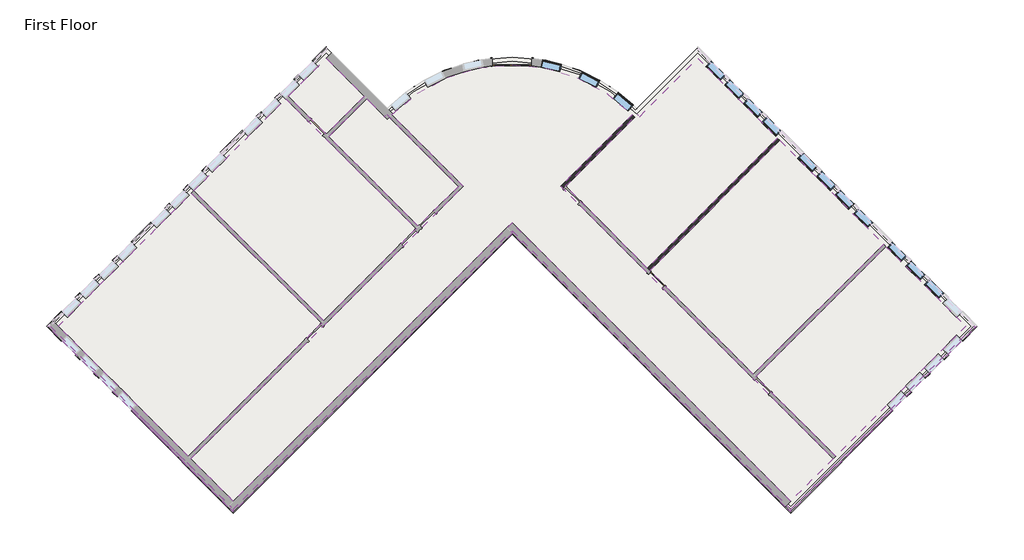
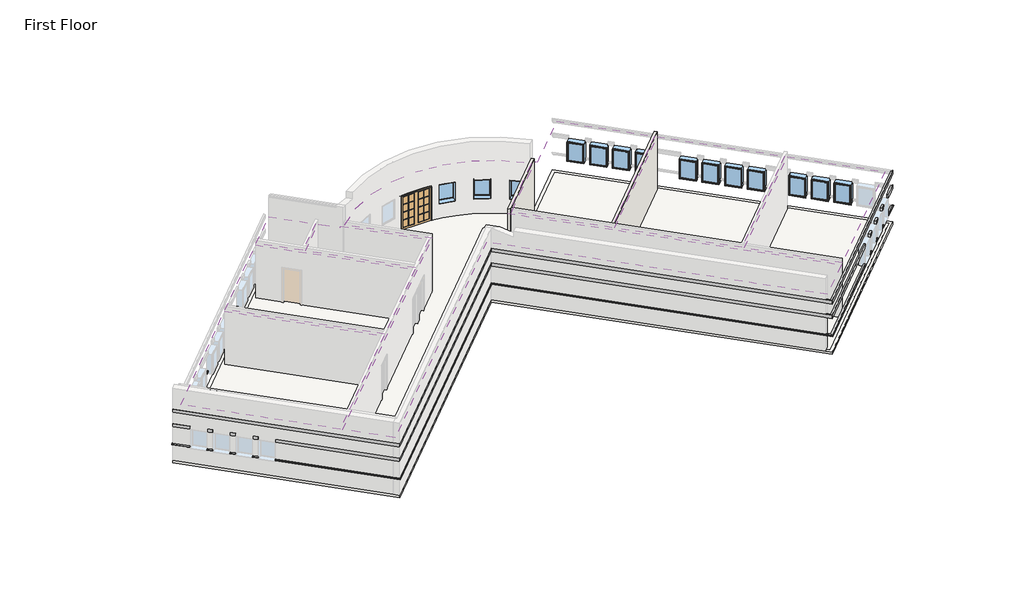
# One storey, part 3 of 4: 14 windows, 13 proxies, 8 coverings, 2 doors, 2 slabs, 2 walls.
"""IFC4 building model written with IfcOpenShell, lengths in millimetres."""

from ifc_helpers import new_model, si_unit, point, frame, frame_2d, origin, origin_with_axes, place, context, project, spatial, polyline, circle_curve, trimmed, segment, composite_curve, outline, extrude, faceted_brep, transform, mapped, element, save
from ifc_brep_helpers import plane_surface, cylinder_surface, advanced_brep
from components import door_0a477ef8, door_5f5b55da, window_15c49d37, window_0e2fc6ce

model = new_model("IFC4")

# Units and contexts
model_context = context("Model", 3, world=origin())
ifc_project = project(units=[si_unit("LENGTHUNIT", "METRE", prefix="MILLI")], contexts=[model_context])

# Site, building, storey
site = spatial("IfcSite", under=ifc_project)
building = spatial("IfcBuilding", under=site)
storey = spatial("IfcBuildingStorey", under=building, Name="First Floor", Elevation=0.0)

# Proxies
placement = place(None, origin())
element("IfcBuildingElementProxy", 1, Name="Wall Sweeps", at=placement, inside=storey, context=model_context, shape_type="Brep", body=[
    faceted_brep([(18554.3726125, -1357.9895101, 1085.85), (18684.5863263, -1357.9895101, 1085.85), (18733.9777349, -1357.9895101, 1041.4), (18733.9777349, -1357.9895101, 1016.0), (18554.3726125, -1357.9895101, 1016.0), (17956.0630484, -1956.2990742, 1085.85), (17956.0630484, -1956.2990742, 1016.0), (18021.1699053, -2021.405931, 1016.0), (18045.8656096, -2046.1016354, 1016.0), (18045.8656096, -2046.1016354, 1041.4), (18021.1699053, -2021.405931, 1085.85), (18370.277362, -1542.0847606, 1085.85), (18370.277362, -1542.0847606, 1016.0)], [[[0, 1, 2, 3, 4]], [[5, 6, 7, 8, 9, 10]], [[1, 0, 11, 5, 10]], [[2, 1, 10, 9]], [[3, 2, 9, 8]], [[4, 3, 8, 7, 6, 12]], [[0, 4, 12, 6, 5, 11]]]),
    faceted_brep([(17309.4846077, -2602.8775149, 1085.85), (17374.5914646, -2667.9843718, 1085.85), (17399.2871689, -2692.6800761, 1041.4), (17399.2871689, -2692.6800761, 1016.0), (17374.5914646, -2667.9843718, 1016.0), (17309.4846077, -2602.8775149, 1016.0), (17093.9584608, -2818.4036618, 1085.85), (17093.9584608, -2818.4036618, 1016.0), (17159.0653177, -2883.5105187, 1016.0), (17183.761022, -2908.206223, 1016.0), (17183.761022, -2908.206223, 1041.4), (17159.0653177, -2883.5105187, 1085.85)], [[[0, 1, 2, 3, 4, 5]], [[6, 7, 8, 9, 10, 11]], [[1, 0, 6, 11]], [[2, 1, 11, 10]], [[3, 2, 10, 9]], [[5, 4, 3, 9, 8, 7]], [[0, 5, 7, 6]]]),
    faceted_brep([(16447.3800201, -3464.9821025, 1085.85), (16512.486877, -3530.0889594, 1085.85), (16537.1825813, -3554.7846637, 1041.4), (16537.1825813, -3554.7846637, 1016.0), (16512.486877, -3530.0889594, 1016.0), (16447.3800201, -3464.9821025, 1016.0), (16231.8538732, -3680.5082494, 1085.85), (16231.8538732, -3680.5082494, 1016.0), (16296.9607301, -3745.6151063, 1016.0), (16321.6564344, -3770.3108106, 1016.0), (16321.6564344, -3770.3108106, 1041.4), (16296.9607301, -3745.6151063, 1085.85)], [[[0, 1, 2, 3, 4, 5]], [[6, 7, 8, 9, 10, 11]], [[1, 0, 6, 11]], [[2, 1, 11, 10]], [[3, 2, 10, 9]], [[5, 4, 3, 9, 8, 7]], [[0, 5, 7, 6]]]),
    faceted_brep([(15585.2754325, -4327.0866901, 1085.85), (15650.3822894, -4392.193547, 1085.85), (15675.0779937, -4416.8892513, 1041.4), (15675.0779937, -4416.8892513, 1016.0), (15650.3822894, -4392.193547, 1016.0), (15585.2754325, -4327.0866901, 1016.0), (15369.7492856, -4542.612837, 1085.85), (15369.7492856, -4542.612837, 1016.0), (15434.8561424, -4607.7196939, 1016.0), (15459.5518468, -4632.4153982, 1016.0), (15459.5518468, -4632.4153982, 1041.4), (15434.8561424, -4607.7196939, 1085.85)], [[[0, 1, 2, 3, 4, 5]], [[6, 7, 8, 9, 10, 11]], [[1, 0, 6, 11]], [[2, 1, 11, 10]], [[3, 2, 10, 9]], [[5, 4, 3, 9, 8, 7]], [[0, 5, 7, 6]]]),
    faceted_brep([(14723.1708449, -5189.1912777, 1085.85), (14788.2777017, -5254.2981346, 1085.85), (14812.9734061, -5278.993839, 1041.4), (14812.9734061, -5278.993839, 1016.0), (14788.2777017, -5254.2981346, 1016.0), (14723.1708449, -5189.1912777, 1016.0), (10063.54045, -9848.8216726, 1085.85), (10063.54045, -9848.8216726, 1016.0), (10063.54045, -10028.426795, 1016.0), (10063.54045, -10028.426795, 1041.4), (10063.54045, -9979.0353863, 1085.85)], [[[0, 1, 2, 3, 4, 5]], [[6, 7, 8, 9, 10]], [[1, 0, 6, 10]], [[2, 1, 10, 9]], [[3, 2, 9, 8]], [[5, 4, 3, 8, 7]], [[0, 5, 7, 6]]]),
])
element("IfcBuildingElementProxy", 2, Name="Wall Sweeps", at=placement, inside=storey, context=model_context, shape_type="Brep", body=[
    faceted_brep([(18684.5863263, -1357.9895101, 2336.8), (18684.5863263, -1357.9895101, 2133.6), (18554.3726125, -1357.9895101, 2133.6), (18554.3726125, -1357.9895101, 2336.8), (18021.1699053, -2021.405931, 2336.8), (17956.0630484, -1956.2990742, 2336.8), (17956.0630484, -1956.2990742, 2133.6), (18021.1699053, -2021.405931, 2133.6), (18435.3842189, -1607.1916175, 2336.8), (18435.3842189, -1607.1916175, 2133.6), (18370.277362, -1542.0847606, 2133.6), (18370.277362, -1542.0847606, 2336.8)], [[[0, 1, 2, 3]], [[4, 5, 6, 7]], [[1, 0, 8, 4, 7, 9]], [[2, 1, 9, 7, 6, 10]], [[3, 2, 10, 6, 5, 11]], [[0, 3, 11, 5, 4, 8]]]),
    faceted_brep([(17374.5914646, -2667.9843718, 2336.8), (17374.5914646, -2667.9843718, 2133.6), (17309.4846077, -2602.8775149, 2133.6), (17309.4846077, -2602.8775149, 2336.8), (17159.0653177, -2883.5105187, 2336.8), (17093.9584608, -2818.4036618, 2336.8), (17093.9584608, -2818.4036618, 2133.6), (17159.0653177, -2883.5105187, 2133.6)], [[[0, 1, 2, 3]], [[4, 5, 6, 7]], [[1, 0, 4, 7]], [[2, 1, 7, 6]], [[3, 2, 6, 5]], [[0, 3, 5, 4]]]),
    faceted_brep([(16512.486877, -3530.0889594, 2336.8), (16512.486877, -3530.0889594, 2133.6), (16447.3800201, -3464.9821025, 2133.6), (16447.3800201, -3464.9821025, 2336.8), (16296.9607301, -3745.6151063, 2336.8), (16231.8538732, -3680.5082494, 2336.8), (16231.8538732, -3680.5082494, 2133.6), (16296.9607301, -3745.6151063, 2133.6)], [[[0, 1, 2, 3]], [[4, 5, 6, 7]], [[1, 0, 4, 7]], [[2, 1, 7, 6]], [[3, 2, 6, 5]], [[0, 3, 5, 4]]]),
    faceted_brep([(15650.3822894, -4392.193547, 2336.8), (15650.3822894, -4392.193547, 2133.6), (15585.2754325, -4327.0866901, 2133.6), (15585.2754325, -4327.0866901, 2336.8), (15434.8561424, -4607.7196939, 2336.8), (15369.7492856, -4542.612837, 2336.8), (15369.7492856, -4542.612837, 2133.6), (15434.8561424, -4607.7196939, 2133.6)], [[[0, 1, 2, 3]], [[4, 5, 6, 7]], [[1, 0, 4, 7]], [[2, 1, 7, 6]], [[3, 2, 6, 5]], [[0, 3, 5, 4]]]),
    faceted_brep([(14788.2777017, -5254.2981346, 2336.8), (14788.2777017, -5254.2981346, 2133.6), (14723.1708449, -5189.1912777, 2133.6), (14723.1708449, -5189.1912777, 2336.8), (10063.54045, -9979.0353863, 2336.8), (10063.54045, -9848.8216726, 2336.8), (10063.54045, -9848.8216726, 2133.6), (10063.54045, -9979.0353863, 2133.6)], [[[0, 1, 2, 3]], [[4, 5, 6, 7]], [[1, 0, 4, 7]], [[2, 1, 7, 6]], [[3, 2, 6, 5]], [[0, 3, 5, 4]]]),
])
element("IfcBuildingElementProxy", 3, Name="Wall Sweeps", at=placement, inside=storey, context=model_context, shape_type="Brep", body=[
    faceted_brep([(18684.5863263, -1357.9895101, 3251.2), (18684.5863263, -1357.9895101, 3048.0), (18554.3726125, -1357.9895101, 3048.0), (18554.3726125, -1357.9895101, 3251.2), (10063.54045, -9979.0353863, 3251.2), (10063.54045, -9848.8216726, 3251.2), (10063.54045, -9848.8216726, 3048.0), (10063.54045, -9979.0353863, 3048.0), (18435.3842189, -1607.1916175, 3251.2), (18435.3842189, -1607.1916175, 3048.0), (18370.277362, -1542.0847606, 3048.0), (18370.277362, -1542.0847606, 3251.2)], [[[0, 1, 2, 3]], [[4, 5, 6, 7]], [[1, 0, 8, 4, 7, 9]], [[2, 1, 9, 7, 6, 10]], [[3, 2, 10, 6, 5, 11]], [[0, 3, 11, 5, 4, 8]]]),
])
element("IfcBuildingElementProxy", 4, Name="Wall Sweeps", at=placement, inside=storey, context=model_context, shape_type="Brep", body=[
    faceted_brep([(10063.54045, -9848.8216726, 1085.85), (10063.54045, -9979.0353863, 1085.85), (10063.54045, -10028.426795, 1041.4), (10063.54045, -10028.426795, 1016.0), (10063.54045, -9848.8216726, 1016.0), (-2868.0283643, 3082.7471418, 1085.85), (-2868.0283643, 3082.7471418, 1016.0), (-2868.0283643, 2903.1420194, 1016.0), (-2868.0283643, 2903.1420194, 1041.4), (-2868.0283643, 2952.533428, 1085.85), (9879.4451996, -9664.7264221, 1085.85), (9879.4451996, -9664.7264221, 1016.0)], [[[0, 1, 2, 3, 4]], [[5, 6, 7, 8, 9]], [[1, 0, 10, 5, 9]], [[2, 1, 9, 8]], [[3, 2, 8, 7]], [[4, 3, 7, 6, 11]], [[0, 4, 11, 6, 5, 10]]]),
])
element("IfcBuildingElementProxy", 5, Name="Wall Sweeps", at=placement, inside=storey, context=model_context, shape_type="Brep", body=[
    faceted_brep([(10063.54045, -9979.0353863, 2336.8), (10063.54045, -9979.0353863, 2133.6), (10063.54045, -9848.8216726, 2133.6), (10063.54045, -9848.8216726, 2336.8), (-2868.0283643, 2952.533428, 2336.8), (-2868.0283643, 3082.7471418, 2336.8), (-2868.0283643, 3082.7471418, 2133.6), (-2868.0283643, 2952.533428, 2133.6), (9814.3383427, -9729.833279, 2336.8), (9814.3383427, -9729.833279, 2133.6), (9879.4451996, -9664.7264221, 2133.6), (9879.4451996, -9664.7264221, 2336.8)], [[[0, 1, 2, 3]], [[4, 5, 6, 7]], [[1, 0, 8, 4, 7, 9]], [[2, 1, 9, 7, 6, 10]], [[3, 2, 10, 6, 5, 11]], [[0, 3, 11, 5, 4, 8]]]),
])
element("IfcBuildingElementProxy", 6, Name="Wall Sweeps", at=placement, inside=storey, context=model_context, shape_type="Brep", body=[
    faceted_brep([(10063.54045, -9979.0353863, 3251.2), (10063.54045, -9979.0353863, 3048.0), (10063.54045, -9848.8216726, 3048.0), (10063.54045, -9848.8216726, 3251.2), (-2868.0283643, 2952.533428, 3251.2), (-2868.0283643, 3082.7471418, 3251.2), (-2868.0283643, 3082.7471418, 3048.0), (-2868.0283643, 2952.533428, 3048.0), (9814.3383427, -9729.833279, 3251.2), (9814.3383427, -9729.833279, 3048.0), (9879.4451996, -9664.7264221, 3048.0), (9879.4451996, -9664.7264221, 3251.2)], [[[0, 1, 2, 3]], [[4, 5, 6, 7]], [[1, 0, 8, 4, 7, 9]], [[2, 1, 9, 7, 6, 10]], [[3, 2, 10, 6, 5, 11]], [[0, 3, 11, 5, 4, 8]]]),
])
element("IfcBuildingElementProxy", 7, Name="Wall Sweeps", at=placement, inside=storey, context=model_context, shape_type="Brep", body=[
    faceted_brep([(-2868.0283643, 3082.7471418, 1085.85), (-2868.0283643, 2952.533428, 1085.85), (-2868.0283643, 2903.1420194, 1041.4), (-2868.0283643, 2903.1420194, 1016.0), (-2868.0283643, 3082.7471418, 1016.0), (-15799.5971786, -9848.8216726, 1085.85), (-15799.5971786, -9848.8216726, 1016.0), (-15799.5971786, -10028.426795, 1016.0), (-15799.5971786, -10028.426795, 1041.4), (-15799.5971786, -9979.0353863, 1085.85), (-2933.1352212, 3017.6402849, 1085.85), (-2933.1352212, 3017.6402849, 1016.0)], [[[0, 1, 2, 3, 4]], [[5, 6, 7, 8, 9]], [[1, 0, 10, 5, 9]], [[2, 1, 9, 8]], [[3, 2, 8, 7]], [[4, 3, 7, 6, 11]], [[0, 4, 11, 6, 5, 10]]]),
])
element("IfcBuildingElementProxy", 8, Name="Wall Sweeps", at=placement, inside=storey, context=model_context, shape_type="Brep", body=[
    faceted_brep([(-2868.0283643, 2952.533428, 2336.8), (-2868.0283643, 2952.533428, 2133.6), (-2868.0283643, 3082.7471418, 2133.6), (-2868.0283643, 3082.7471418, 2336.8), (-15799.5971786, -9979.0353863, 2336.8), (-15799.5971786, -9848.8216726, 2336.8), (-15799.5971786, -9848.8216726, 2133.6), (-15799.5971786, -9979.0353863, 2133.6), (-2933.1352212, 3017.6402849, 2133.6), (-2933.1352212, 3017.6402849, 2336.8)], [[[0, 1, 2, 3]], [[4, 5, 6, 7]], [[1, 0, 4, 7]], [[2, 1, 7, 6, 8]], [[3, 2, 8, 6, 5, 9]], [[0, 3, 9, 5, 4]]]),
])
element("IfcBuildingElementProxy", 9, Name="Wall Sweeps", at=placement, inside=storey, context=model_context, shape_type="Brep", body=[
    faceted_brep([(-2868.0283643, 2952.533428, 3251.2), (-2868.0283643, 2952.533428, 3048.0), (-2868.0283643, 3082.7471418, 3048.0), (-2868.0283643, 3082.7471418, 3251.2), (-15799.5971786, -9979.0353863, 3251.2), (-15799.5971786, -9848.8216726, 3251.2), (-15799.5971786, -9848.8216726, 3048.0), (-15799.5971786, -9979.0353863, 3048.0), (-2933.1352212, 3017.6402849, 3048.0), (-2933.1352212, 3017.6402849, 3251.2)], [[[0, 1, 2, 3]], [[4, 5, 6, 7]], [[1, 0, 4, 7]], [[2, 1, 7, 6, 8]], [[3, 2, 8, 6, 5, 9]], [[0, 3, 9, 5, 4]]]),
])
element("IfcBuildingElementProxy", 10, Name="Wall Sweeps", at=placement, inside=storey, context=model_context, shape_type="Brep", body=[
    faceted_brep([(-15799.5971786, -9848.8216726, 1085.85), (-15799.5971786, -9979.0353863, 1085.85), (-15799.5971786, -10028.426795, 1041.4), (-15799.5971786, -10028.426795, 1016.0), (-15799.5971786, -9848.8216726, 1016.0), (-20459.2275735, -5189.1912777, 1085.85), (-20459.2275735, -5189.1912777, 1016.0), (-20524.3344303, -5254.2981346, 1016.0), (-20549.0301347, -5278.993839, 1016.0), (-20549.0301347, -5278.993839, 1041.4), (-20524.3344303, -5254.2981346, 1085.85), (-15983.6924291, -9664.7264221, 1085.85), (-15983.6924291, -9664.7264221, 1016.0)], [[[0, 1, 2, 3, 4]], [[5, 6, 7, 8, 9, 10]], [[1, 0, 11, 5, 10]], [[2, 1, 10, 9]], [[3, 2, 9, 8]], [[4, 3, 8, 7, 6, 12]], [[0, 4, 12, 6, 5, 11]]]),
    faceted_brep([(-21105.8060142, -4542.612837, 1085.85), (-21170.9128711, -4607.7196939, 1085.85), (-21195.6085754, -4632.4153982, 1041.4), (-21195.6085754, -4632.4153982, 1016.0), (-21170.9128711, -4607.7196939, 1016.0), (-21105.8060142, -4542.612837, 1016.0), (-21321.3321611, -4327.0866901, 1085.85), (-21321.3321611, -4327.0866901, 1016.0), (-21386.439018, -4392.193547, 1016.0), (-21411.1347223, -4416.8892513, 1016.0), (-21411.1347223, -4416.8892513, 1041.4), (-21386.439018, -4392.193547, 1085.85)], [[[0, 1, 2, 3, 4, 5]], [[6, 7, 8, 9, 10, 11]], [[1, 0, 6, 11]], [[2, 1, 11, 10]], [[3, 2, 10, 9]], [[5, 4, 3, 9, 8, 7]], [[0, 5, 7, 6]]]),
    faceted_brep([(-21967.9106018, -3680.5082494, 1085.85), (-22033.0174587, -3745.6151063, 1085.85), (-22057.713163, -3770.3108106, 1041.4), (-22057.713163, -3770.3108106, 1016.0), (-22033.0174587, -3745.6151063, 1016.0), (-21967.9106018, -3680.5082494, 1016.0), (-22183.4367487, -3464.9821025, 1085.85), (-22183.4367487, -3464.9821025, 1016.0), (-22248.5436056, -3530.0889594, 1016.0), (-22273.2393099, -3554.7846637, 1016.0), (-22273.2393099, -3554.7846637, 1041.4), (-22248.5436056, -3530.0889594, 1085.85)], [[[0, 1, 2, 3, 4, 5]], [[6, 7, 8, 9, 10, 11]], [[1, 0, 6, 11]], [[2, 1, 11, 10]], [[3, 2, 10, 9]], [[5, 4, 3, 9, 8, 7]], [[0, 5, 7, 6]]]),
    faceted_brep([(-22830.0151894, -2818.4036618, 1085.85), (-22895.1220463, -2883.5105187, 1085.85), (-22919.8177506, -2908.206223, 1041.4), (-22919.8177506, -2908.206223, 1016.0), (-22895.1220463, -2883.5105187, 1016.0), (-22830.0151894, -2818.4036618, 1016.0), (-23045.5413363, -2602.8775149, 1085.85), (-23045.5413363, -2602.8775149, 1016.0), (-23110.6481932, -2667.9843718, 1016.0), (-23135.3438975, -2692.6800761, 1016.0), (-23135.3438975, -2692.6800761, 1041.4), (-23110.6481932, -2667.9843718, 1085.85)], [[[0, 1, 2, 3, 4, 5]], [[6, 7, 8, 9, 10, 11]], [[1, 0, 6, 11]], [[2, 1, 11, 10]], [[3, 2, 10, 9]], [[5, 4, 3, 9, 8, 7]], [[0, 5, 7, 6]]]),
    faceted_brep([(-23692.119777, -1956.2990742, 1085.85), (-23757.2266339, -2021.405931, 1085.85), (-23781.9223383, -2046.1016354, 1041.4), (-23781.9223383, -2046.1016354, 1016.0), (-23757.2266339, -2021.405931, 1016.0), (-23692.119777, -1956.2990742, 1016.0), (-24290.4293411, -1357.9895101, 1085.85), (-24290.4293411, -1357.9895101, 1016.0), (-24470.0344635, -1357.9895101, 1016.0), (-24470.0344635, -1357.9895101, 1041.4), (-24420.6430549, -1357.9895101, 1085.85)], [[[0, 1, 2, 3, 4, 5]], [[6, 7, 8, 9, 10]], [[1, 0, 6, 10]], [[2, 1, 10, 9]], [[3, 2, 9, 8]], [[5, 4, 3, 8, 7]], [[0, 5, 7, 6]]]),
])
element("IfcBuildingElementProxy", 11, Name="Wall Sweeps", at=placement, inside=storey, context=model_context, shape_type="Brep", body=[
    faceted_brep([(-15799.5971786, -9979.0353863, 2336.8), (-15799.5971786, -9979.0353863, 2133.6), (-15799.5971786, -9848.8216726, 2133.6), (-15799.5971786, -9848.8216726, 2336.8), (-20524.3344303, -5254.2981346, 2336.8), (-20459.2275735, -5189.1912777, 2336.8), (-20459.2275735, -5189.1912777, 2133.6), (-20524.3344303, -5254.2981346, 2133.6), (-16048.799286, -9729.833279, 2336.8), (-16048.799286, -9729.833279, 2133.6), (-15983.6924291, -9664.7264221, 2133.6), (-15983.6924291, -9664.7264221, 2336.8)], [[[0, 1, 2, 3]], [[4, 5, 6, 7]], [[1, 0, 8, 4, 7, 9]], [[2, 1, 9, 7, 6, 10]], [[3, 2, 10, 6, 5, 11]], [[0, 3, 11, 5, 4, 8]]]),
    faceted_brep([(-21170.9128711, -4607.7196939, 2336.8), (-21170.9128711, -4607.7196939, 2133.6), (-21105.8060142, -4542.612837, 2133.6), (-21105.8060142, -4542.612837, 2336.8), (-21386.439018, -4392.193547, 2336.8), (-21321.3321611, -4327.0866901, 2336.8), (-21321.3321611, -4327.0866901, 2133.6), (-21386.439018, -4392.193547, 2133.6)], [[[0, 1, 2, 3]], [[4, 5, 6, 7]], [[1, 0, 4, 7]], [[2, 1, 7, 6]], [[3, 2, 6, 5]], [[0, 3, 5, 4]]]),
    faceted_brep([(-22033.0174587, -3745.6151063, 2336.8), (-22033.0174587, -3745.6151063, 2133.6), (-21967.9106018, -3680.5082494, 2133.6), (-21967.9106018, -3680.5082494, 2336.8), (-22248.5436056, -3530.0889594, 2336.8), (-22183.4367487, -3464.9821025, 2336.8), (-22183.4367487, -3464.9821025, 2133.6), (-22248.5436056, -3530.0889594, 2133.6)], [[[0, 1, 2, 3]], [[4, 5, 6, 7]], [[1, 0, 4, 7]], [[2, 1, 7, 6]], [[3, 2, 6, 5]], [[0, 3, 5, 4]]]),
    faceted_brep([(-22895.1220463, -2883.5105187, 2336.8), (-22895.1220463, -2883.5105187, 2133.6), (-22830.0151894, -2818.4036618, 2133.6), (-22830.0151894, -2818.4036618, 2336.8), (-23110.6481932, -2667.9843718, 2336.8), (-23045.5413363, -2602.8775149, 2336.8), (-23045.5413363, -2602.8775149, 2133.6), (-23110.6481932, -2667.9843718, 2133.6)], [[[0, 1, 2, 3]], [[4, 5, 6, 7]], [[1, 0, 4, 7]], [[2, 1, 7, 6]], [[3, 2, 6, 5]], [[0, 3, 5, 4]]]),
    faceted_brep([(-23757.2266339, -2021.405931, 2336.8), (-23757.2266339, -2021.405931, 2133.6), (-23692.119777, -1956.2990742, 2133.6), (-23692.119777, -1956.2990742, 2336.8), (-24420.6430549, -1357.9895101, 2336.8), (-24290.4293411, -1357.9895101, 2336.8), (-24290.4293411, -1357.9895101, 2133.6), (-24420.6430549, -1357.9895101, 2133.6)], [[[0, 1, 2, 3]], [[4, 5, 6, 7]], [[1, 0, 4, 7]], [[2, 1, 7, 6]], [[3, 2, 6, 5]], [[0, 3, 5, 4]]]),
])
element("IfcBuildingElementProxy", 12, Name="Wall Sweeps", at=placement, inside=storey, context=model_context, shape_type="Brep", body=[
    faceted_brep([(-15799.5971786, -9979.0353863, 3251.2), (-15799.5971786, -9979.0353863, 3048.0), (-15799.5971786, -9848.8216726, 3048.0), (-15799.5971786, -9848.8216726, 3251.2), (-24420.6430549, -1357.9895101, 3251.2), (-24290.4293411, -1357.9895101, 3251.2), (-24290.4293411, -1357.9895101, 3048.0), (-24420.6430549, -1357.9895101, 3048.0), (-16048.799286, -9729.833279, 3251.2), (-16048.799286, -9729.833279, 3048.0), (-15983.6924291, -9664.7264221, 3048.0), (-15983.6924291, -9664.7264221, 3251.2)], [[[0, 1, 2, 3]], [[4, 5, 6, 7]], [[1, 0, 8, 4, 7, 9]], [[2, 1, 9, 7, 6, 10]], [[3, 2, 10, 6, 5, 11]], [[0, 3, 11, 5, 4, 8]]]),
])
element("IfcBuildingElementProxy", 13, Name="Wall Sweeps", at=placement, inside=storey, context=model_context, shape_type="Brep", body=[
    faceted_brep([(-24290.4293411, -1357.9895101, 1085.85), (-24420.6430549, -1357.9895101, 1085.85), (-24470.0344635, -1357.9895101, 1041.4), (-24470.0344635, -1357.9895101, 1016.0), (-24290.4293411, -1357.9895101, 1016.0), (-23692.119777, -759.679946, 1085.85), (-23692.119777, -759.679946, 1016.0), (-23757.2266339, -694.5730891, 1016.0), (-23781.9223383, -669.8773848, 1016.0), (-23781.9223383, -669.8773848, 1041.4), (-23757.2266339, -694.5730891, 1085.85), (-24106.3340906, -1173.8942596, 1085.85), (-24106.3340906, -1173.8942596, 1016.0)], [[[0, 1, 2, 3, 4]], [[5, 6, 7, 8, 9, 10]], [[1, 0, 11, 5, 10]], [[2, 1, 10, 9]], [[3, 2, 9, 8]], [[4, 3, 8, 7, 6, 12]], [[0, 4, 12, 6, 5, 11]]]),
    faceted_brep([(-23045.5413363, -113.1015053, 1085.85), (-23110.6481932, -47.9946484, 1085.85), (-23135.3438975, -23.2989441, 1041.4), (-23135.3438975, -23.2989441, 1016.0), (-23110.6481932, -47.9946484, 1016.0), (-23045.5413363, -113.1015053, 1016.0), (-22830.0151894, 102.4246416, 1085.85), (-22830.0151894, 102.4246416, 1016.0), (-22895.1220463, 167.5314985, 1016.0), (-22919.8177506, 192.2272028, 1016.0), (-22919.8177506, 192.2272028, 1041.4), (-22895.1220463, 167.5314985, 1085.85)], [[[0, 1, 2, 3, 4, 5]], [[6, 7, 8, 9, 10, 11]], [[1, 0, 6, 11]], [[2, 1, 11, 10]], [[3, 2, 10, 9]], [[5, 4, 3, 9, 8, 7]], [[0, 5, 7, 6]]]),
    faceted_brep([(-22183.4367487, 749.0030823, 1085.85), (-22248.5436056, 814.1099392, 1085.85), (-22273.2393099, 838.8056435, 1041.4), (-22273.2393099, 838.8056435, 1016.0), (-22248.5436056, 814.1099392, 1016.0), (-22183.4367487, 749.0030823, 1016.0), (-21967.9106018, 964.5292292, 1085.85), (-21967.9106018, 964.5292292, 1016.0), (-22033.0174587, 1029.6360861, 1016.0), (-22057.713163, 1054.3317904, 1016.0), (-22057.713163, 1054.3317904, 1041.4), (-22033.0174587, 1029.6360861, 1085.85)], [[[0, 1, 2, 3, 4, 5]], [[6, 7, 8, 9, 10, 11]], [[1, 0, 6, 11]], [[2, 1, 11, 10]], [[3, 2, 10, 9]], [[5, 4, 3, 9, 8, 7]], [[0, 5, 7, 6]]]),
    faceted_brep([(-21321.3321611, 1611.1076699, 1085.85), (-21386.439018, 1676.2145268, 1085.85), (-21411.1347223, 1700.9102311, 1041.4), (-21411.1347223, 1700.9102311, 1016.0), (-21386.439018, 1676.2145268, 1016.0), (-21321.3321611, 1611.1076699, 1016.0), (-21105.8060142, 1826.6338168, 1085.85), (-21105.8060142, 1826.6338168, 1016.0), (-21170.9128711, 1891.7406737, 1016.0), (-21195.6085754, 1916.4363781, 1016.0), (-21195.6085754, 1916.4363781, 1041.4), (-21170.9128711, 1891.7406737, 1085.85)], [[[0, 1, 2, 3, 4, 5]], [[6, 7, 8, 9, 10, 11]], [[1, 0, 6, 11]], [[2, 1, 11, 10]], [[3, 2, 10, 9]], [[5, 4, 3, 9, 8, 7]], [[0, 5, 7, 6]]]),
    faceted_brep([(-20459.2275735, 2473.2122576, 1085.85), (-20524.3344303, 2538.3191144, 1085.85), (-20549.0301347, 2563.0148188, 1041.4), (-20549.0301347, 2563.0148188, 1016.0), (-20524.3344303, 2538.3191144, 1016.0), (-20459.2275735, 2473.2122576, 1016.0), (-19543.7128733, 3388.7269578, 1085.85), (-19543.7128733, 3388.7269578, 1016.0), (-19608.8197301, 3453.8338146, 1016.0), (-19633.5154345, 3478.529519, 1016.0), (-19633.5154345, 3478.529519, 1041.4), (-19608.8197301, 3453.8338146, 1085.85)], [[[0, 1, 2, 3, 4, 5]], [[6, 7, 8, 9, 10, 11]], [[1, 0, 6, 11]], [[2, 1, 11, 10]], [[3, 2, 10, 9]], [[5, 4, 3, 9, 8, 7]], [[0, 5, 7, 6]]]),
    faceted_brep([(-18897.1344326, 4035.3053985, 1085.85), (-18962.2412894, 4100.4122553, 1085.85), (-18986.9369938, 4125.1079597, 1041.4), (-18986.9369938, 4125.1079597, 1016.0), (-18962.2412894, 4100.4122553, 1016.0), (-18897.1344326, 4035.3053985, 1016.0), (-18681.6082856, 4250.8315454, 1085.85), (-18681.6082856, 4250.8315454, 1016.0), (-18746.7151425, 4315.9384023, 1016.0), (-18771.4108469, 4340.6341066, 1016.0), (-18771.4108469, 4340.6341066, 1041.4), (-18746.7151425, 4315.9384023, 1085.85)], [[[0, 1, 2, 3, 4, 5]], [[6, 7, 8, 9, 10, 11]], [[1, 0, 6, 11]], [[2, 1, 11, 10]], [[3, 2, 10, 9]], [[5, 4, 3, 9, 8, 7]], [[0, 5, 7, 6]]]),
    faceted_brep([(-18035.0298449, 4897.4099861, 1085.85), (-18100.1367018, 4962.516843, 1085.85), (-18124.8324061, 4987.2125473, 1041.4), (-18124.8324061, 4987.2125473, 1016.0), (-18100.1367018, 4962.516843, 1016.0), (-18035.0298449, 4897.4099861, 1016.0), (-17819.503698, 5112.936133, 1085.85), (-17819.503698, 5112.936133, 1016.0), (-17884.6105549, 5178.0429899, 1016.0), (-17909.3062592, 5202.7386942, 1016.0), (-17909.3062592, 5202.7386942, 1041.4), (-17884.6105549, 5178.0429899, 1085.85)], [[[0, 1, 2, 3, 4, 5]], [[6, 7, 8, 9, 10, 11]], [[1, 0, 6, 11]], [[2, 1, 11, 10]], [[3, 2, 10, 9]], [[5, 4, 3, 9, 8, 7]], [[0, 5, 7, 6]]]),
    faceted_brep([(-17172.9252573, 5759.5145737, 1085.85), (-17238.0321142, 5824.6214306, 1085.85), (-17262.7278185, 5849.3171349, 1041.4), (-17262.7278185, 5849.3171349, 1016.0), (-17238.0321142, 5824.6214306, 1016.0), (-17172.9252573, 5759.5145737, 1016.0), (-16957.3991104, 5975.0407206, 1085.85), (-16957.3991104, 5975.0407206, 1016.0), (-17022.5059673, 6040.1475775, 1016.0), (-17047.2016716, 6064.8432818, 1016.0), (-17047.2016716, 6064.8432818, 1041.4), (-17022.5059673, 6040.1475775, 1085.85)], [[[0, 1, 2, 3, 4, 5]], [[6, 7, 8, 9, 10, 11]], [[1, 0, 6, 11]], [[2, 1, 11, 10]], [[3, 2, 10, 9]], [[5, 4, 3, 9, 8, 7]], [[0, 5, 7, 6]]]),
    faceted_brep([(-16310.8206697, 6621.6191613, 1085.85), (-16375.9275266, 6686.7260182, 1085.85), (-16400.6232309, 6711.4217225, 1041.4), (-16400.6232309, 6711.4217225, 1016.0), (-16375.9275266, 6686.7260182, 1016.0), (-16310.8206697, 6621.6191613, 1016.0), (-15286.3644832, 7646.0753478, 1085.85), (-15286.3644832, 7646.0753478, 1016.0), (-15351.4713401, 7711.1822047, 1016.0), (-15376.1670444, 7735.877909, 1016.0), (-15376.1670444, 7735.877909, 1041.4), (-15351.4713401, 7711.1822047, 1085.85)], [[[0, 1, 2, 3, 4, 5]], [[6, 7, 8, 9, 10, 11]], [[1, 0, 6, 11]], [[2, 1, 11, 10]], [[3, 2, 10, 9]], [[5, 4, 3, 9, 8, 7]], [[0, 5, 7, 6]]]),
    faceted_brep([(-14639.7860425, 8292.6537886, 1085.85), (-14704.8928993, 8357.7606454, 1085.85), (-14729.5886037, 8382.4563498, 1041.4), (-14729.5886037, 8382.4563498, 1016.0), (-14704.8928993, 8357.7606454, 1016.0), (-14639.7860425, 8292.6537886, 1016.0), (-14424.2598956, 8508.1799355, 1085.85), (-14424.2598956, 8508.1799355, 1016.0), (-14489.3667524, 8573.2867923, 1016.0), (-14514.0624568, 8597.9824967, 1016.0), (-14514.0624568, 8597.9824967, 1041.4), (-14489.3667524, 8573.2867923, 1085.85)], [[[0, 1, 2, 3, 4, 5]], [[6, 7, 8, 9, 10, 11]], [[1, 0, 6, 11]], [[2, 1, 11, 10]], [[3, 2, 10, 9]], [[5, 4, 3, 9, 8, 7]], [[0, 5, 7, 6]]]),
    faceted_brep([(-13777.6814548, 9154.7583762, 1085.85), (-13842.7883117, 9219.8652331, 1085.85), (-13867.4840161, 9244.5609374, 1041.4), (-13867.4840161, 9244.5609374, 1016.0), (-13842.7883117, 9219.8652331, 1016.0), (-13777.6814548, 9154.7583762, 1016.0), (-13562.1553079, 9370.2845231, 1085.85), (-13562.1553079, 9370.2845231, 1016.0), (-13627.2621648, 9435.39138, 1016.0), (-13651.9578691, 9460.0870843, 1016.0), (-13651.9578691, 9460.0870843, 1041.4), (-13627.2621648, 9435.39138, 1085.85)], [[[0, 1, 2, 3, 4, 5]], [[6, 7, 8, 9, 10, 11]], [[1, 0, 6, 11]], [[2, 1, 11, 10]], [[3, 2, 10, 9]], [[5, 4, 3, 9, 8, 7]], [[0, 5, 7, 6]]]),
    faceted_brep([(-12915.5768672, 10016.8629638, 1085.85), (-12980.6837241, 10081.9698207, 1085.85), (-13005.3794284, 10106.665525, 1041.4), (-13005.3794284, 10106.665525, 1016.0), (-12980.6837241, 10081.9698207, 1016.0), (-12915.5768672, 10016.8629638, 1016.0), (-12700.0507203, 10232.3891107, 1085.85), (-12700.0507203, 10232.3891107, 1016.0), (-12765.1575772, 10297.4959676, 1016.0), (-12789.8532815, 10322.1916719, 1016.0), (-12789.8532815, 10322.1916719, 1041.4), (-12765.1575772, 10297.4959676, 1085.85)], [[[0, 1, 2, 3, 4, 5]], [[6, 7, 8, 9, 10, 11]], [[1, 0, 6, 11]], [[2, 1, 11, 10]], [[3, 2, 10, 9]], [[5, 4, 3, 9, 8, 7]], [[0, 5, 7, 6]]]),
    faceted_brep([(-12053.4722796, 10878.9675514, 1085.85), (-12118.5791365, 10944.0744083, 1085.85), (-12143.2748408, 10968.7701126, 1041.4), (-12143.2748408, 10968.7701126, 1016.0), (-12118.5791365, 10944.0744083, 1016.0), (-12053.4722796, 10878.9675514, 1016.0), (-11489.0742405, 11443.3655905, 1085.85), (-11489.0742405, 11443.3655905, 1016.0), (-11489.0742405, 11622.9707129, 1016.0), (-11489.0742405, 11622.9707129, 1041.4), (-11489.0742405, 11573.5793042, 1085.85)], [[[0, 1, 2, 3, 4, 5]], [[6, 7, 8, 9, 10]], [[1, 0, 6, 10]], [[2, 1, 10, 9]], [[3, 2, 9, 8]], [[5, 4, 3, 8, 7]], [[0, 5, 7, 6]]]),
])

# Coverings
element("IfcCovering", 14, ObjectType="2' x 2' ACT System", at=placement, inside=storey, context=model_context, shape_type="SweptSolid", body=[
    extrude(outline(polyline([(-11706.7276692, -1216.4326939), (-17885.2616628, -7394.9666875), (-23922.2388402, -1357.9895101), (-17743.7048466, 4820.5444835), (-11706.7276692, -1216.4326939)])), frame((0.0, 0.0, 3352.8), z_axis=(0.0, 0.0, 1.0), x_axis=(1.0, 0.0, 0.0)), (0.0, 0.0, 1.0), 57.15),
])
element("IfcCovering", 15, ObjectType="2' x 2' ACT System", at=placement, inside=storey, context=model_context, shape_type="SweptSolid", body=[
    extrude(outline(polyline([(-17633.6967091, 4930.552621), (-13359.2125777, 9205.0367523), (-7322.2354004, 3168.0595749), (-11596.7195317, -1106.4245564), (-17633.6967091, 4930.552621)])), frame((0.0, 0.0, 3352.8), z_axis=(0.0, 0.0, 1.0), x_axis=(1.0, 0.0, 0.0)), (0.0, 0.0, 1.0), 57.15),
])
element("IfcCovering", 16, ObjectType="2' x 2' ACT System", at=placement, inside=storey, context=model_context, shape_type="SweptSolid", body=[
    extrude(outline(polyline([(-11379.066103, 7444.9065526), (-9618.9359033, 9205.0367523), (-8786.2632499, 8372.3640989), (-8682.75474, 8475.8726089), (-5348.5885532, 5141.7064221), (-7212.2272629, 3278.0677124), (-11379.066103, 7444.9065526)])), frame((0.0, 0.0, 3352.8), z_axis=(0.0, 0.0, 1.0), x_axis=(1.0, 0.0, 0.0)), (0.0, 0.0, 1.0), 57.15),
])
element("IfcCovering", 17, ObjectType="2' x 2' ACT System", at=placement, inside=storey, context=model_context, shape_type="SweptSolid", body=[
    extrude(outline(polyline([(-13249.2044403, 9315.0448898), (-11489.0742405, 11075.1750895), (-9728.9440408, 9315.0448898), (-11489.0742405, 7554.9146901), (-13249.2044403, 9315.0448898)])), frame((0.0, 0.0, 3352.8), z_axis=(0.0, 0.0, 1.0), x_axis=(1.0, 0.0, 0.0)), (0.0, 0.0, 1.0), 57.15),
])
element("IfcCovering", 18, ObjectType="2' x 2' ACT System", at=placement, inside=storey, context=model_context, shape_type="SweptSolid", body=[
    extrude(outline(composite_curve([segment(polyline([(-607.4844504, 5141.7064221), (12039.1967967, -7504.974825), (10063.54045, -9480.6311716), (-2868.0283643, 3450.9376427), (-15799.5971786, -9480.6311716), (-17775.2535253, -7504.974825), (-5128.5722782, 5141.7064221), (-8449.0111375, 8462.1452813)]), True, "CONTINUOUS"), segment(trimmed(circle_curve(frame_2d((-2868.0283643, 2903.1420194)), 7877.175), [point((-8449.0111375, 8462.1452813))], [point((2712.9544089, 8462.1452813))], False, "CARTESIAN"), True, "CONTINUOUS"), segment(polyline([(2712.9544089, 8462.1452813), (-607.4844504, 5141.7064221)]), True, "CONTINUOUS")], self_intersect=False)), frame((0.0, 0.0, 3352.8), z_axis=(0.0, 0.0, 1.0), x_axis=(1.0, 0.0, 0.0)), (0.0, 0.0, 1.0), 57.15),
])
element("IfcCovering", 19, ObjectType="2' x 2' ACT System", at=placement, inside=storey, context=model_context, shape_type="SweptSolid", body=[
    extrude(outline(polyline([(2946.6980114, 8475.8726089), (3050.2065213, 8372.3640989), (5753.0175119, 11075.1750895), (9452.8830338, 7375.3095676), (3415.9058564, 1338.3323903), (-387.4681754, 5141.7064221), (2946.6980114, 8475.8726089)])), frame((0.0, 0.0, 3352.8), z_axis=(0.0, 0.0, 1.0), x_axis=(1.0, 0.0, 0.0)), (0.0, 0.0, 1.0), 57.15),
])
element("IfcCovering", 20, ObjectType="2' x 2' ACT System", at=placement, inside=storey, context=model_context, shape_type="SweptSolid", body=[
    extrude(outline(polyline([(3525.9139939, 1228.3242528), (9562.8911713, 7265.3014302), (14376.3084522, 2451.8841493), (8339.3312748, -3585.0930281), (3525.9139939, 1228.3242528)])), frame((0.0, 0.0, 3352.8), z_axis=(0.0, 0.0, 1.0), x_axis=(1.0, 0.0, 0.0)), (0.0, 0.0, 1.0), 57.15),
])
element("IfcCovering", 21, ObjectType="2' x 2' ACT System", at=placement, inside=storey, context=model_context, shape_type="SweptSolid", body=[
    extrude(outline(polyline([(8449.3394123, -3695.1011656), (14486.3165897, 2341.8760118), (18186.1821115, -1357.9895101), (12149.2049342, -7394.9666875), (8449.3394123, -3695.1011656)])), frame((0.0, 0.0, 3352.8), z_axis=(0.0, 0.0, 1.0), x_axis=(1.0, 0.0, 0.0)), (0.0, 0.0, 1.0), 57.15),
])

# Doors
door_shape = door_0a477ef8(model_context)
element("IfcDoor", 22, ObjectType="Double-Glass 2 : 72\" x 84\"", at=placement, inside=storey, context=model_context, shape_type="MappedRepresentation", body=[
    mapped(door_shape, transform((-2868.7603243, 10905.5717204, 0.0), x_axis=(-0.9999999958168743, -9.146721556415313e-05, 0.0), y_axis=(9.146721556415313e-05, -0.9999999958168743, 0.0), z_axis=(0.0, 0.0, 1.0))),
])
door_2_shape = door_5f5b55da(model_context)
element("IfcDoor", 23, ObjectType="Single-Glass 1 : 36\" x 84\"", at=placement, inside=storey, context=model_context, shape_type="MappedRepresentation", body=[
    mapped(door_2_shape, transform((3846.9581502, 797.271959, 0.0), x_axis=(-0.7071067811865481, 0.7071067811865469, 0.0), y_axis=(-0.7071067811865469, -0.7071067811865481, 0.0), z_axis=(0.0, 0.0, 1.0))),
])

# Slabs
element("IfcSlab", 24, ObjectType="4\" Concrete Slab", at=placement, inside=storey, context=model_context, shape_type="SweptSolid", body=[
    extrude(outline(composite_curve([segment(polyline([(-11489.0742405, 11308.6617487), (-8661.5174871, 8481.1049952)]), True, "CONTINUOUS"), segment(trimmed(circle_curve(frame_2d((-2868.0283643, 2903.1420194)), 8042.275), [point((-8661.5174871, 8481.1049952))], [point((2925.4607585, 8481.1049952))], False, "CARTESIAN"), True, "CONTINUOUS"), segment(polyline([(2925.4607585, 8481.1049952), (5753.0175119, 11308.6617487), (18419.6687707, -1357.9895101), (10063.54045, -9714.1178307), (-2868.0283643, 3217.4509836), (-15799.5971786, -9714.1178307), (-24155.7254993, -1357.9895101), (-11489.0742405, 11308.6617487)]), True, "CONTINUOUS")], self_intersect=False)), frame((0.0, 0.0, -101.6), z_axis=(0.0, 0.0, 1.0), x_axis=(1.0, 0.0, 0.0)), (0.0, 0.0, 1.0), 101.6),
])
element("IfcSlab", 25, ObjectType="LW Concrete on Metal Deck", at=placement, inside=storey, context=model_context, shape_type="SweptSolid", body=[
    extrude(outline(composite_curve([segment(polyline([(-11489.0742405, 11573.5793042), (-8662.486224, 8746.9912878)]), True, "CONTINUOUS"), segment(trimmed(circle_curve(frame_2d((-2868.0283643, 2903.1420194)), 8229.6), [point((-8662.486224, 8746.9912878))], [point((2926.4294954, 8746.9912878))], False, "CARTESIAN"), True, "CONTINUOUS"), segment(polyline([(2926.4294954, 8746.9912878), (5753.0175119, 11573.5793042), (18684.5863263, -1357.9895101), (10063.54045, -9979.0353863), (-2868.0283643, 2952.533428), (-15799.5971786, -9979.0353863), (-24420.6430549, -1357.9895101), (-11489.0742405, 11573.5793042)]), True, "CONTINUOUS")], self_intersect=False)), frame((0.0, 0.0, -139.7), z_axis=(0.0, 0.0, 1.0), x_axis=(1.0, 0.0, 0.0)), (0.0, 0.0, 1.0), 139.7),
])

# Walls
element("IfcWall", 26, ObjectType="Interior - 6 1/8\" Partition (2-hr)", at=placement, inside=storey, context=model_context, shape_type="AdvancedBrep", body=[
    advanced_brep(
    [(-497.4763129, 5031.6982846, 0.0), (-387.4681754, 5141.7064221, 0.0), (2821.6590066, 8350.8336041, 0.0), (2821.6590066, 8350.8336041, 3657.6), (-387.4681754, 5141.7064221, 3657.6), (-497.4763129, 5031.6982846, 3657.6), (-607.4844504, 5141.7064221, 0.0), (-607.4844504, 5141.7064221, 3657.6), (2712.9544089, 8462.1452813, 3657.6), (2712.9544089, 8462.1452813, 0.0)],
    [
        (0, 1),
        (1, 2),
        (2, 3),
        (3, 4),
        (4, 5),
        (5, 0),
        (6, 7),
        (7, 8),
        (8, 9),
        (9, 6),
        (0, 6),
        (9, 2, circle_curve(frame((-2868.0283643, 2903.1420194, 0.0), z_axis=(0.0, 0.0, -1.0), x_axis=(1.0, 0.0, 0.0)), 7877.175)),
        (3, 8, circle_curve(frame((-2868.0283643, 2903.1420194, 3657.6), z_axis=(0.0, 0.0, 1.0), x_axis=(1.0, 0.0, 0.0)), 7877.175)),
        (7, 5),
    ],
    [
        plane_surface(frame((-442.4722441, 5086.7023533, 0.0), z_axis=(0.7071067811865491, -0.7071067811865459, 0.0), x_axis=(0.7071067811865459, 0.7071067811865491, 0.0))),
        plane_surface(frame((-552.4803816, 5196.7104908, 0.0), z_axis=(-0.7071067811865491, 0.7071067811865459, 0.0), x_axis=(-0.7071067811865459, -0.7071067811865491, 0.0))),
        plane_surface(frame((-442.4722441, 5086.7023533, 0.0), z_axis=(0.0, 0.0, -1.0), x_axis=(-0.707106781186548, 0.7071067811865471, 0.0))),
        plane_surface(frame((2947.192033, 8476.3666305, 3657.6), z_axis=(0.0, 0.0, 1.0000000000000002), x_axis=(-0.7071067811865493, 0.7071067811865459, 0.0))),
        plane_surface(frame((12163.7978503, -7629.5758786, 0.0), z_axis=(-0.7071067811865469, -0.7071067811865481, 0.0), x_axis=(0.7071067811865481, -0.7071067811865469, 0.0))),
        cylinder_surface(frame((-2868.0283643, 2903.1420194, 0.0), z_axis=(0.0, 0.0, -1.0), x_axis=(1.0, 0.0, 0.0)), 7877.175),
    ],
    [
        (0, [[1, 2, 3, 4, 5, 6]]),
        (1, [[7, 8, 9, 10]]),
        (2, [[-2, -1, 11, -10, 12]]),
        (3, [[-5, -4, 13, -8, 14]]),
        (4, [[-6, -14, -7, -11]]),
        (5, [[-3, -12, -9, -13]]),
    ],
),
])
element("IfcWall", 27, ObjectType="Interior - 6 1/8\" Partition (2-hr)", at=placement, inside=storey, context=model_context, shape_type="SweptSolid", body=[
    extrude(outline(polyline([(3415.9058564, 1338.3323903), (9452.8830338, 7375.3095676), (9562.8911713, 7265.3014302), (3525.9139939, 1228.3242528), (3415.9058564, 1338.3323903)])), origin_with_axes(), (0.0, 0.0, 1.0), 3657.6),
])

# Windows
window_shape = window_15c49d37(model_context)
element("IfcWindow", 28, ObjectType="Fixed : 36\" x 48\"", at=placement, inside=storey, context=model_context, shape_type="MappedRepresentation", body=[
    mapped(window_shape, transform((6554.2698062, 10523.1249026, 0.0), x_axis=(-0.7071067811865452, 0.7071067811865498, 0.0), y_axis=(-0.7071067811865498, -0.7071067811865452, 0.0), z_axis=(0.0, 0.0, 1.0))),
])
element("IfcWindow", 29, ObjectType="Fixed : 36\" x 48\"", at=placement, inside=storey, context=model_context, shape_type="MappedRepresentation", body=[
    mapped(window_shape, transform((7416.3743938, 9661.020315, 0.0), x_axis=(-0.7071067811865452, 0.7071067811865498, 0.0), y_axis=(-0.7071067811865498, -0.7071067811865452, 0.0), z_axis=(0.0, 0.0, 1.0))),
])
element("IfcWindow", 30, ObjectType="Fixed : 36\" x 48\"", at=placement, inside=storey, context=model_context, shape_type="MappedRepresentation", body=[
    mapped(window_shape, transform((8278.4789814, 8798.9157274, 0.0), x_axis=(-0.7071067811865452, 0.7071067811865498, 0.0), y_axis=(-0.7071067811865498, -0.7071067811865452, 0.0), z_axis=(0.0, 0.0, 1.0))),
])
element("IfcWindow", 31, ObjectType="Fixed : 36\" x 48\"", at=placement, inside=storey, context=model_context, shape_type="MappedRepresentation", body=[
    mapped(window_shape, transform((9140.583569, 7936.8111398, 0.0), x_axis=(-0.7071067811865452, 0.7071067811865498, 0.0), y_axis=(-0.7071067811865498, -0.7071067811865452, 0.0), z_axis=(0.0, 0.0, 1.0))),
])
window_2_shape = window_0e2fc6ce(model_context)
element("IfcWindow", 32, ObjectType="Fixed : 36\" x 48\"", at=placement, inside=storey, context=model_context, shape_type="MappedRepresentation", body=[
    mapped(window_2_shape, transform((2271.4327875, 9086.2422995, 0.0), x_axis=(-0.765985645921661, 0.642857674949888, 0.0), y_axis=(-0.642857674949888, -0.765985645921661, 0.0), z_axis=(0.0, 0.0, 1.0))),
])
element("IfcWindow", 33, ObjectType="Fixed : 36\" x 48\"", at=placement, inside=storey, context=model_context, shape_type="MappedRepresentation", body=[
    mapped(window_2_shape, transform((-1095.8037333, 10745.5912454, 0.0), x_axis=(-0.9743494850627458, 0.2250401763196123, 0.0), y_axis=(-0.2250401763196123, -0.9743494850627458, 0.0), z_axis=(0.0, 0.0, 1.0))),
])
element("IfcWindow", 34, ObjectType="Fixed : 36\" x 48\"", at=placement, inside=storey, context=model_context, shape_type="MappedRepresentation", body=[
    mapped(window_2_shape, transform((686.0129721, 10115.1861252, 0.0), x_axis=(-0.8948935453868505, 0.44627966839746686, 0.0), y_axis=(-0.44627966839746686, -0.8948935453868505, 0.0), z_axis=(0.0, 0.0, 1.0))),
])
element("IfcWindow", 35, ObjectType="Fixed : 36\" x 48\"", at=placement, inside=storey, context=model_context, shape_type="MappedRepresentation", body=[
    mapped(window_2_shape, transform((16738.115812, 339.2788968, 0.0), x_axis=(0.7071067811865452, -0.7071067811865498, 0.0), y_axis=(0.7071067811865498, 0.7071067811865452, 0.0), z_axis=(0.0, 0.0, 1.0))),
])
element("IfcWindow", 36, ObjectType="Fixed : 36\" x 48\"", at=placement, inside=storey, context=model_context, shape_type="MappedRepresentation", body=[
    mapped(window_2_shape, transform((15876.0112244, 1201.3834844, 0.0), x_axis=(0.7071067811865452, -0.7071067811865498, 0.0), y_axis=(0.7071067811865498, 0.7071067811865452, 0.0), z_axis=(0.0, 0.0, 1.0))),
])
element("IfcWindow", 37, ObjectType="Fixed : 36\" x 48\"", at=placement, inside=storey, context=model_context, shape_type="MappedRepresentation", body=[
    mapped(window_2_shape, transform((15013.9066368, 2063.488072, 0.0), x_axis=(0.7071067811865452, -0.7071067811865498, 0.0), y_axis=(0.7071067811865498, 0.7071067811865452, 0.0), z_axis=(0.0, 0.0, 1.0))),
])
element("IfcWindow", 38, ObjectType="Fixed : 36\" x 48\"", at=placement, inside=storey, context=model_context, shape_type="MappedRepresentation", body=[
    mapped(window_2_shape, transform((13451.8134959, 3625.5812129, 0.0), x_axis=(0.7071067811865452, -0.7071067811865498, 0.0), y_axis=(0.7071067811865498, 0.7071067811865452, 0.0), z_axis=(0.0, 0.0, 1.0))),
])
element("IfcWindow", 39, ObjectType="Fixed : 36\" x 48\"", at=placement, inside=storey, context=model_context, shape_type="MappedRepresentation", body=[
    mapped(window_2_shape, transform((12589.7089082, 4487.6858006, 0.0), x_axis=(0.7071067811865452, -0.7071067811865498, 0.0), y_axis=(0.7071067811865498, 0.7071067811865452, 0.0), z_axis=(0.0, 0.0, 1.0))),
])
element("IfcWindow", 40, ObjectType="Fixed : 36\" x 48\"", at=placement, inside=storey, context=model_context, shape_type="MappedRepresentation", body=[
    mapped(window_2_shape, transform((11727.6043206, 5349.7903882, 0.0), x_axis=(0.7071067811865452, -0.7071067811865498, 0.0), y_axis=(0.7071067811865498, 0.7071067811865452, 0.0), z_axis=(0.0, 0.0, 1.0))),
])
element("IfcWindow", 41, ObjectType="Fixed : 36\" x 48\"", at=placement, inside=storey, context=model_context, shape_type="MappedRepresentation", body=[
    mapped(window_2_shape, transform((10865.499733, 6211.8949758, 0.0), x_axis=(0.7071067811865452, -0.7071067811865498, 0.0), y_axis=(0.7071067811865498, 0.7071067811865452, 0.0), z_axis=(0.0, 0.0, 1.0))),
])

save(model, "model.ifc")
